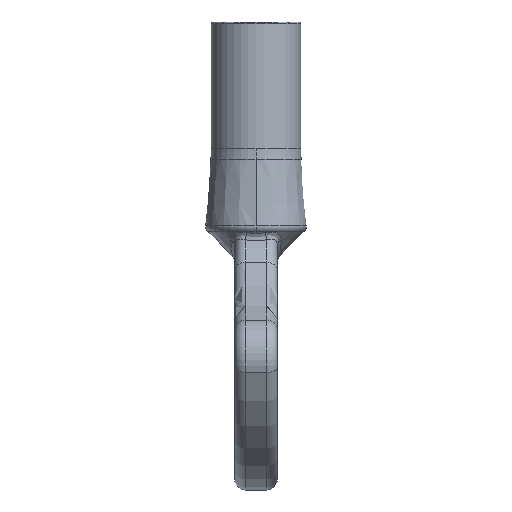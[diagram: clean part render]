
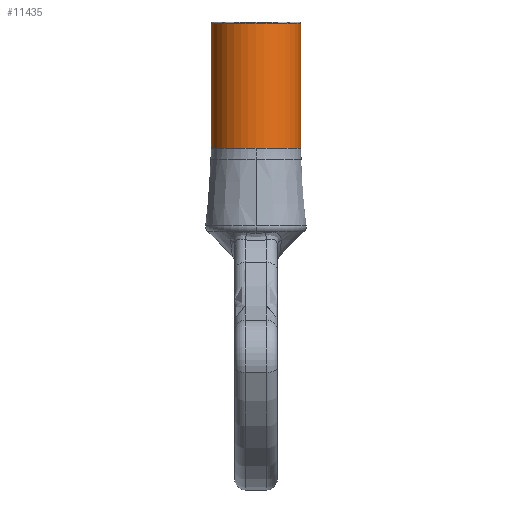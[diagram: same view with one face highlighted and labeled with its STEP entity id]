
A CAD part, front view. The second image highlights one B-rep face of the part: STEP entity #11435.
In plain terms, the highlighted cylindrical face has radius 6.275 mm (diameter 12.55 mm), a partial arc.
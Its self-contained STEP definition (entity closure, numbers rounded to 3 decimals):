
#77 = CARTESIAN_POINT ( 'NONE',  ( 0., 0., 0.774 ) ) ;
#436 = CARTESIAN_POINT ( 'NONE',  ( 6.275, 0., 0.774 ) ) ;
#734 = CARTESIAN_POINT ( 'NONE',  ( -6.275, 0., 18.3 ) ) ;
#1696 = ORIENTED_EDGE ( 'NONE', *, *, #8857, .F. ) ;
#1744 = FACE_OUTER_BOUND ( 'NONE', #15938, .T. ) ;
#1876 = ORIENTED_EDGE ( 'NONE', *, *, #3838, .T. ) ;
#2388 = VERTEX_POINT ( 'NONE', #5675 ) ;
#2540 = DIRECTION ( 'NONE',  ( 0., 0., -1. ) ) ;
#3089 = CIRCLE ( 'NONE', #11665, 6.275 ) ;
#3426 = EDGE_CURVE ( 'NONE', #2388, #7016, #3089, .T. ) ;
#3578 = DIRECTION ( 'NONE',  ( 0., 0., -1. ) ) ;
#3619 = AXIS2_PLACEMENT_3D ( 'NONE', #4599, #11150, #16121 ) ;
#3838 = EDGE_CURVE ( 'NONE', #7016, #8580, #15970, .T. ) ;
#4357 = LINE ( 'NONE', #12162, #12094 ) ;
#4599 = CARTESIAN_POINT ( 'NONE',  ( 0., 0., 0.774 ) ) ;
#4958 = DIRECTION ( 'NONE',  ( 1., 0., 0. ) ) ;
#5352 = DIRECTION ( 'NONE',  ( 0., 0., -1. ) ) ;
#5675 = CARTESIAN_POINT ( 'NONE',  ( 6.275, 0., 18.3 ) ) ;
#5957 = ORIENTED_EDGE ( 'NONE', *, *, #12753, .T. ) ;
#7016 = VERTEX_POINT ( 'NONE', #734 ) ;
#7231 = VECTOR ( 'NONE', #5352, 1000. ) ;
#7422 = DIRECTION ( 'NONE',  ( 0., 0., -1. ) ) ;
#7656 = AXIS2_PLACEMENT_3D ( 'NONE', #77, #16708, #13328 ) ;
#7673 = CIRCLE ( 'NONE', #3619, 6.275 ) ;
#8580 = VERTEX_POINT ( 'NONE', #9607 ) ;
#8857 = EDGE_CURVE ( 'NONE', #2388, #17495, #4357, .T. ) ;
#9203 = ORIENTED_EDGE ( 'NONE', *, *, #11839, .T. ) ;
#9607 = CARTESIAN_POINT ( 'NONE',  ( -6.275, 0., 0.774 ) ) ;
#11150 = DIRECTION ( 'NONE',  ( 0., 0., 1. ) ) ;
#11435 = ADVANCED_FACE ( 'NONE', ( #1744 ), #21055, .T. ) ;
#11665 = AXIS2_PLACEMENT_3D ( 'NONE', #18428, #3578, #4958 ) ;
#11839 = EDGE_CURVE ( 'NONE', #8580, #12876, #7673, .T. ) ;
#12094 = VECTOR ( 'NONE', #7422, 1000. ) ;
#12162 = CARTESIAN_POINT ( 'NONE',  ( 6.275, 0., 18.5 ) ) ;
#12753 = EDGE_CURVE ( 'NONE', #12876, #17495, #20530, .T. ) ;
#12876 = VERTEX_POINT ( 'NONE', #20582 ) ;
#13328 = DIRECTION ( 'NONE',  ( 0., 1., 0. ) ) ;
#14672 = ORIENTED_EDGE ( 'NONE', *, *, #3426, .T. ) ;
#15137 = CARTESIAN_POINT ( 'NONE',  ( -6.275, 0., 18.5 ) ) ;
#15938 = EDGE_LOOP ( 'NONE', ( #1696, #14672, #1876, #9203, #5957 ) ) ;
#15970 = LINE ( 'NONE', #15137, #7231 ) ;
#16121 = DIRECTION ( 'NONE',  ( 0., 1., 0. ) ) ;
#16608 = AXIS2_PLACEMENT_3D ( 'NONE', #20551, #2540, #19105 ) ;
#16708 = DIRECTION ( 'NONE',  ( 0., 0., 1. ) ) ;
#17495 = VERTEX_POINT ( 'NONE', #436 ) ;
#18428 = CARTESIAN_POINT ( 'NONE',  ( 0., 0., 18.3 ) ) ;
#19105 = DIRECTION ( 'NONE',  ( -1., 0., 0. ) ) ;
#20530 = CIRCLE ( 'NONE', #7656, 6.275 ) ;
#20551 = CARTESIAN_POINT ( 'NONE',  ( 0., 0., 18.5 ) ) ;
#20582 = CARTESIAN_POINT ( 'NONE',  ( 0., -6.275, 0.774 ) ) ;
#21055 = CYLINDRICAL_SURFACE ( 'NONE', #16608, 6.275 ) ;
